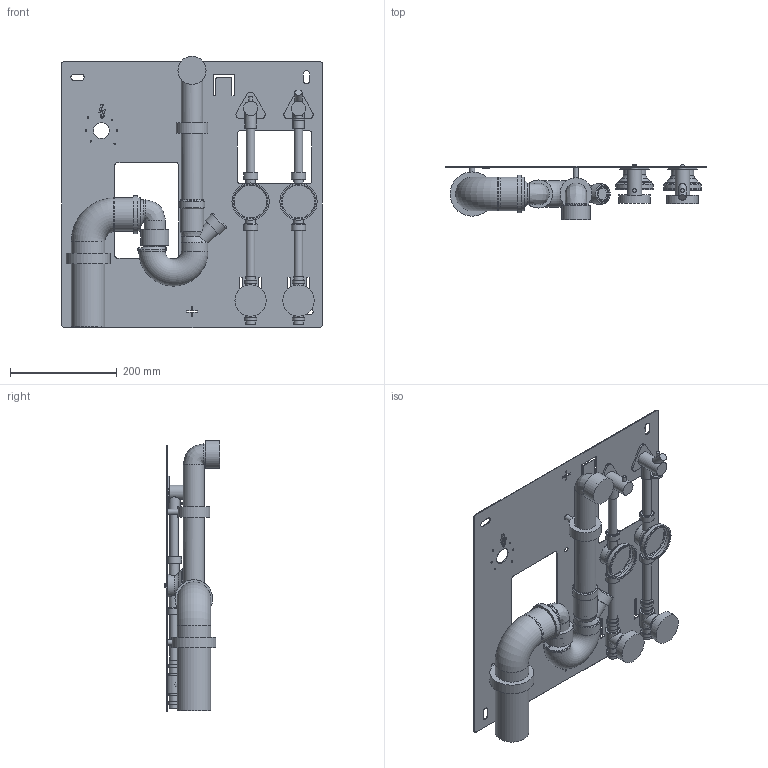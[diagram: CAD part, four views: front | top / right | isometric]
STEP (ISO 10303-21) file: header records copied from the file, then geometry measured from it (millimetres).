
FILE_DESCRIPTION(('STEP AP214'),'1');
FILE_NAME('NYFFix_7900R.STP','2025-07-07T13:27:24',(' '),(' '),'Spatial InterOp 3D',' ',' ');
FILE_SCHEMA(('AUTOMOTIVE_DESIGN { 1 0 10303 214 1 1 1 1 }'));
Length unit declared in the file: millimetre
Products named in the file (1): Torus
Bounding box: 490 x 104 x 509.28 mm (x, y, z)
Volume: 1222788.5 mm3; surface area: 939598.4 mm2
Topology: 26 solids, 102 shells, 602 faces, 1519 edges, 1027 vertices
Faces by surface type: plane 261, cylinder 260, torus 33, cone 33, bspline 15
Full cylindrical faces by diameter (mm): 3 x6, 5.1 x6, 7 x2, 8.5 x5, 10 x2, 12 x4, 13.867 x1, 14 x1, 15.4 x2, 16 x4, 16.7 x2, 18 x4, 18.2 x14, 20 x4, 21 x2, 22 x1, 22.622 x1, 22.8 x4, 24.9 x2, 26.441 x4, 26.818 x2, 28 x4, 30 x2, 30.2 x2, 33.249 x2, 36 x3, 36.1 x2, 38 x1, 39 x1, 40 x5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
Entity records: 22269 total; most frequent: CARTESIAN_POINT 5137, DIRECTION 3173, ORIENTED_EDGE 2348, AXIS2_PLACEMENT_3D 1352, EDGE_CURVE 1270, VERTEX_POINT 984, EDGE_LOOP 944, CIRCLE 633
